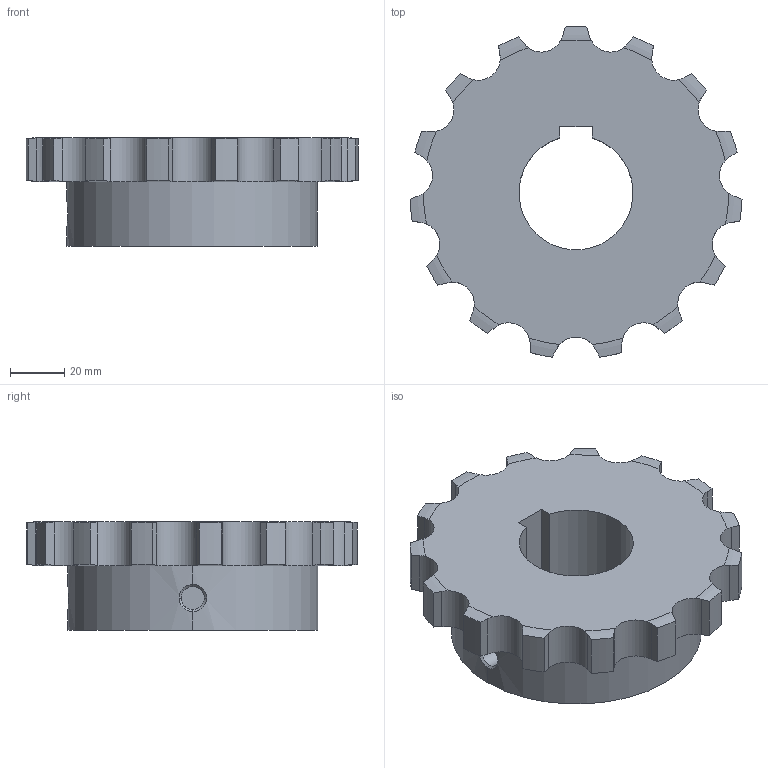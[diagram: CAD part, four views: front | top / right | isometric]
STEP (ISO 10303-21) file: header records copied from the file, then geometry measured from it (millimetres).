
FILE_DESCRIPTION((''),'2;1');
FILE_NAME('510-501-4215_PRT','2021-02-13T',('Brieden'),('Brieden'),'PRO/ENGINEER BY PARAMETRIC TECHNOLOGY CORPORATION, 2010160','PRO/ENGINEER BY PARAMETRIC TECHNOLOGY CORPORATION, 2010160','');
FILE_SCHEMA(('AUTOMOTIVE_DESIGN { 1 0 10303 214 1 1 1 1 }'));
Length unit declared in the file: millimetre
Products named in the file (1): 510-501-4215_PRT
Bounding box: 122.08 x 121.53 x 40 mm (x, y, z)
Volume: 264977.3 mm3; surface area: 38525.7 mm2
Topology: 1 solids, 1 shells, 111 faces, 315 edges, 208 vertices
Faces by surface type: cylinder 67, torus 30, plane 8, bspline 6
Entity records: 5526 total; most frequent: CARTESIAN_POINT 1805, ORIENTED_EDGE 630, DIRECTION 493, PRESENTATION_STYLE_ASSIGNMENT 316, STYLED_ITEM 316, CURVE_STYLE 315, EDGE_CURVE 315, VERTEX_POINT 208
